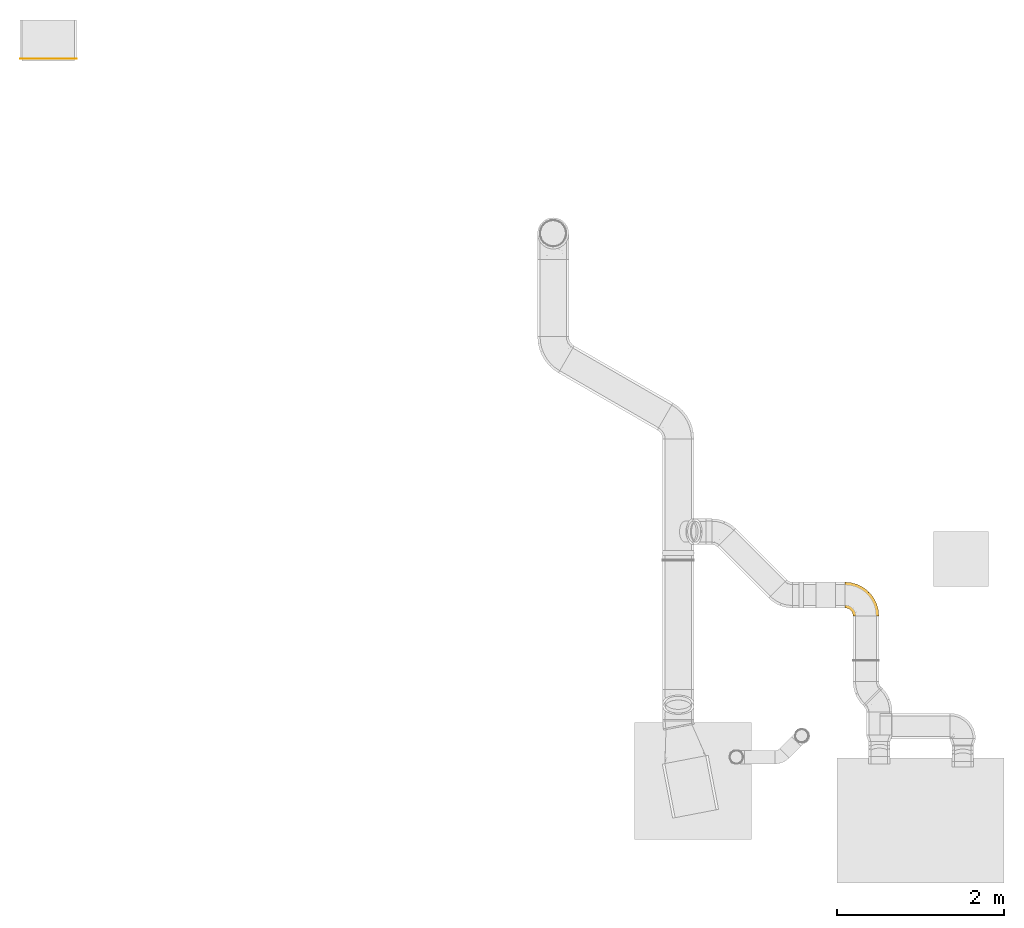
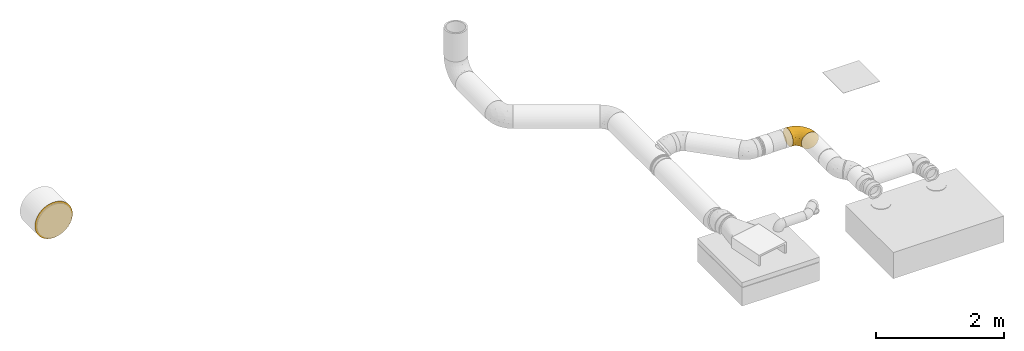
# One storey, part 9 of 21: 2 coverings.
"""IFC2X3 building model written with IfcOpenShell, lengths in millimetres."""

from ifc_helpers import new_model, entity, si_unit, converted_unit, derived_unit, direction, frame, origin_with_axes, place, context, subcontext, project, spatial, open_shell, surface_model, source, transform, mapped, element, save


model = new_model("IFC2X3")

# Units and contexts
model_context = context("Model", 3, precision=0.01, world=frame((0.0, 4.29681676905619e-09, 0.0)), true_north=direction((4.01073788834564e-13, 1.0)))
plan_context = context("Plan", 3, precision=0.01, world=frame((0.0, 4.29681676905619e-09, 0.0)), true_north=direction((4.01073788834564e-13, 1.0)))
body_context = subcontext(model_context, "Body", "Model", "MODEL_VIEW")
ifc_project = project(units=[converted_unit("PLANEANGLEUNIT", "DEGREE", entity("IfcPositiveLengthMeasure", 0.0174532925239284), si_unit("PLANEANGLEUNIT", "RADIAN"), dimensions=[0, 0, 0, 0, 0, 0, 0]), si_unit("AREAUNIT", "SQUARE_METRE"), si_unit("LENGTHUNIT", "METRE", prefix="MILLI"), si_unit("MASSUNIT", "GRAM", prefix="KILO"), si_unit("POWERUNIT", "WATT"), si_unit("PRESSUREUNIT", "PASCAL"), si_unit("FORCEUNIT", "NEWTON", prefix="KILO"), si_unit("ELECTRICVOLTAGEUNIT", "VOLT"), si_unit("ELECTRICCURRENTUNIT", "AMPERE"), si_unit("THERMODYNAMICTEMPERATUREUNIT", "DEGREE_CELSIUS"), si_unit("TIMEUNIT", "SECOND"), si_unit("VOLUMEUNIT", "CUBIC_METRE"), derived_unit("LINEARVELOCITYUNIT", [(si_unit("LENGTHUNIT", "METRE"), 1), (si_unit("TIMEUNIT", "SECOND"), -1)]), derived_unit("VOLUMETRICFLOWRATEUNIT", [(si_unit("VOLUMEUNIT", "CUBIC_METRE"), 1), (si_unit("TIMEUNIT", "SECOND"), -1)]), derived_unit("THERMALTRANSMITTANCEUNIT", [(si_unit("POWERUNIT", "WATT"), 1), (si_unit("THERMODYNAMICTEMPERATUREUNIT", "KELVIN"), -1), (si_unit("AREAUNIT", "SQUARE_METRE"), -1)]), derived_unit("SOUNDPRESSUREUNIT", [(si_unit("PRESSUREUNIT", "PASCAL"), 1)])], contexts=[model_context, plan_context])

# Site, building, storey
site_placement = place(None, frame((0.0, -4.29681676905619e-09, 0.0), z_axis=(0.0, 0.0, 1.0), x_axis=(1.0, 0.0, 0.0)))
site = spatial("IfcSite", under=ifc_project, at=site_placement, Name="ENGM", CompositionType="ELEMENT")
building_placement = place(site_placement, frame((0.0, 4.29681676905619e-09, 0.0), z_axis=(0.0, 0.0, 1.0), x_axis=(1.0, 0.0, 0.0)))
building = spatial("IfcBuilding", under=site, at=building_placement, Name="TI", CompositionType="ELEMENT")
storey_placement = place(building_placement, frame((0.0, 0.0, 210900.0), z_axis=(0.0, 0.0, 1.0), x_axis=(1.0, 0.0, 0.0)))
storey = spatial("IfcBuildingStorey", under=building, at=storey_placement, Name="Nivå F", CompositionType="ELEMENT", Elevation=210900.0)

# Coverings
shared_shape_1 = source(origin_with_axes(), body_context, "Body", "SurfaceModel", [
    surface_model("IfcShellBasedSurfaceModel", [(20.0, -116.28685, 319.49551), (20.0, -170.0, 294.44863), (20.0, 0.0, 340.0), (20.0, -59.04038, 334.83465), (20.0, 59.04038, 334.83465), (20.0, -260.45511, 218.54778), (20.0, -294.44863, 170.0), (20.0, -319.49551, 116.28685), (20.0, -218.54778, 260.45511), (20.0, 218.54778, 260.45511), (20.0, 170.0, 294.44863), (20.0, 116.28685, 319.49551), (20.0, 294.44863, 170.0), (20.0, 334.83465, 59.04038), (20.0, 319.49551, 116.28685), (20.0, -340.0, 0.0), (20.0, -334.83465, -59.04038), (20.0, -319.49551, -116.28685), (20.0, 0.0, -340.0), (20.0, -116.28685, -319.49551), (20.0, -59.04038, -334.83465), (20.0, 170.0, -294.44863), (20.0, 59.04038, -334.83465), (20.0, 116.28685, -319.49551), (20.0, 319.49551, -116.28685), (20.0, 260.45511, 218.54778), (20.0, 340.0, 0.0), (20.0, -334.83465, 59.04038), (20.0, -218.54778, -260.45511), (20.0, -294.44863, -170.0), (20.0, 294.44863, -170.0), (20.0, -170.0, -294.44863), (20.0, -260.45511, -218.54778), (20.0, 218.54778, -260.45511), (20.0, 260.45511, -218.54778), (20.0, 334.83465, -59.04038), (19.99961, -170.0, -294.44863), (19.99961, -218.54778, -260.45511), (19.99961, -116.28685, -319.49551), (19.99961, 0.0, -340.0), (19.99961, -59.04038, -334.83465), (19.99961, 294.44863, -170.0), (19.99961, -334.83465, -59.04038), (19.99961, -340.0, 0.0), (19.99961, -319.49551, -116.28685), (19.99961, -294.44863, -170.0), (19.99961, -260.45511, -218.54778), (19.99961, 334.83465, 59.04038), (19.99961, 59.04038, -334.83465), (19.99961, 170.0, -294.44863), (19.99961, 116.28685, -319.49551), (19.99961, 260.45511, -218.54778), (19.99961, 218.54778, -260.45511), (19.99961, 319.49551, -116.28685), (19.99961, 340.0, 0.0), (19.99961, 334.83465, -59.04038), (19.99961, 218.54778, 260.45511), (19.99961, -319.49551, 116.28685), (19.99961, -294.44863, 170.0), (19.99961, -260.45511, 218.54778), (19.99961, 59.04038, 334.83465), (19.99961, -218.54778, 260.45511), (19.99961, -170.0, 294.44863), (19.99961, -116.28685, 319.49551), (19.99961, -59.04038, 334.83465), (19.99961, 0.0, 340.0), (19.99961, 294.44863, 170.0), (19.99961, 319.49551, 116.28685), (19.99961, 116.28685, 319.49551), (19.99961, 260.45511, 218.54778), (19.99961, 170.0, 294.44863), (19.99961, -334.83465, 59.04038)], [open_shell([[[0, 1, 2]], [[2, 3, 0]], [[2, 1, 4]], [[5, 6, 7]], [[5, 7, 8]], [[9, 10, 11]], [[12, 13, 14]], [[15, 16, 17]], [[18, 19, 20]], [[21, 22, 23]], [[4, 8, 7]], [[4, 1, 8]], [[7, 17, 4]], [[11, 4, 9]], [[9, 24, 13]], [[25, 9, 12]], [[9, 13, 12]], [[13, 24, 26]], [[4, 17, 9]], [[7, 27, 15]], [[17, 24, 9]], [[28, 17, 29]], [[24, 17, 28]], [[28, 19, 30]], [[19, 28, 31]], [[29, 32, 28]], [[33, 34, 30]], [[24, 28, 30]], [[24, 35, 26]], [[18, 22, 21]], [[21, 33, 30]], [[21, 30, 18]], [[18, 30, 19]], [[17, 7, 15]], [[36, 37, 38]], [[38, 39, 40]], [[41, 38, 37]], [[42, 43, 44]], [[45, 44, 37]], [[44, 41, 37]], [[46, 45, 37]], [[47, 41, 44]], [[48, 39, 49]], [[49, 50, 48]], [[39, 41, 49]], [[51, 52, 41]], [[49, 41, 52]], [[38, 41, 39]], [[47, 53, 41]], [[53, 54, 55]], [[43, 47, 44]], [[56, 43, 57]], [[58, 59, 57]], [[59, 60, 57]], [[60, 61, 62]], [[63, 64, 65]], [[63, 65, 62]], [[59, 61, 60]], [[60, 62, 65]], [[66, 67, 47]], [[66, 47, 56]], [[54, 53, 47]], [[60, 68, 56]], [[56, 69, 66]], [[56, 68, 70]], [[43, 56, 47]], [[60, 56, 57]], [[71, 57, 43]]])]),
])
covering_1_placement = place(storey_placement, frame((599767.06731, 699175.62991, 463.401000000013), z_axis=(1.0, 0.0, 0.0), x_axis=(0.0, 0.999999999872, -1.5999999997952e-05)))
element("IfcCovering", 1, at=covering_1_placement, inside=storey, Name="T=25mm", PredefinedType="INSULATION", context=body_context, shape_type="MappedRepresentation", body=[
    mapped(shared_shape_1, transform((0.0, 0.0, 0.0), scale=1.0)),
])
shared_shape_2 = source(origin_with_axes(), body_context, "Body", "SurfaceModel", [
    surface_model("IfcShellBasedSurfaceModel", [(26.91195, 250.0, 152.64582), (53.0122, 250.0, 145.65269), (118.73529, 250.0, 99.63399), (-53.01196, 250.0, 145.65278), (0.0, 250.0, 155.0), (77.50252, 250.0, 134.23249), (145.65278, 250.0, 53.01196), (152.6459, 250.0, 26.91148), (134.23266, 250.0, 77.50222), (99.63454, 250.0, 118.73482), (-145.65278, 250.0, -53.01196), (-77.50222, 250.0, 134.23266), (-118.73482, 250.0, 99.63454), (-99.63399, 250.0, 118.73529), (-26.91148, 250.0, 152.6459), (-134.23249, 250.0, 77.50252), (-145.65269, 250.0, 53.0122), (-155.0, 250.0, 0.0), (-152.64582, 250.0, 26.91195), (155.0, 250.0, 0.0), (152.64582, 250.0, -26.91195), (145.65269, 250.0, -53.0122), (99.63399, 250.0, -118.73529), (134.23249, 250.0, -77.50252), (-134.23266, 250.0, -77.50222), (53.01196, 250.0, -145.65278), (-26.91195, 250.0, -152.64582), (77.50222, 250.0, -134.23266), (118.73482, 250.0, -99.63454), (0.0, 250.0, -155.0), (26.91148, 250.0, -152.6459), (-99.63454, 250.0, -118.73482), (-118.73529, 250.0, -99.63399), (-152.6459, 250.0, -26.91148), (-77.50252, 250.0, -134.23249), (-53.0122, 250.0, -145.65269), (-250.0, 149.7185, -40.11695), (-250.0, 134.23394, 77.5), (-250.0, 155.0, 0.0), (-250.0, 77.5, -134.23394), (-250.0, 134.23394, -77.5), (-250.0, 109.60155, -109.60155), (-250.0, -77.5, 134.23394), (-250.0, 0.0, 155.0), (-250.0, 109.60155, 109.60155), (-250.0, 149.7185, 40.11695), (-250.0, 40.11695, 149.7185), (-250.0, 77.5, 134.23394), (-250.0, 40.11695, -149.7185), (-250.0, 0.0, -155.0), (-250.0, -40.11695, -149.7185), (-250.0, -77.5, -134.23394), (-250.0, -134.23394, -77.5), (-250.0, -109.60155, -109.60155), (-250.0, -155.0, 0.0), (-250.0, -149.7185, -40.11695), (-250.0, -134.23394, 77.5), (-250.0, -109.60155, 109.60155), (-250.0, -40.11695, 149.7185), (-250.0, -149.7185, 40.11695), (-150.31078, -137.47961, 38.67299), (-179.67248, -148.84714, 0.0), (-111.48184, -130.57551, 0.0), (130.57551, 111.48184, 0.0), (145.01049, 177.05911, 31.86841), (114.0188, 83.02302, 37.12446), (100.74029, 47.5, 0.0), (-47.5, -100.74029, 0.0), (-83.00007, -114.03065, 37.04192), (10.32898, -60.248, 0.0), (-20.99283, -79.08825, 35.29449), (-183.11942, -134.92229, 65.05), (-191.0855, -93.92643, 119.31754), (3.78518, 74.23487, 143.45185), (-49.54875, 49.54875, 151.34078), (-48.89804, 3.01457, 139.04106), (52.55606, 56.70038, 110.16688), (18.59113, 47.09169, 128.53788), (1.69806, -1.69807, 113.1308), (65.9981, 2.35675, 32.86941), (-129.01187, -24.20514, 146.81223), (-117.30413, -78.97391, 114.26733), (-100.74226, -44.96137, 132.41076), (-179.96963, -60.07628, 139.34304), (-6.26802, 194.36977, 155.0), (11.73841, 141.12202, 151.34078), (-194.36977, 6.26802, 155.0), (-167.16928, -117.53346, 89.2134), (48.8239, 143.19487, 139.60898), (-141.52906, 24.75778, 155.0), (-19.26822, -49.20189, 87.65463), (43.33387, 11.85264, 87.65463), (60.248, -10.32898, 0.0), (106.6963, 176.9469, 104.91009), (-94.12755, 54.54213, 155.0), (148.84714, 179.67248, 0.0), (132.00028, 159.3803, 60.7432), (97.31699, 87.1286, 78.57178), (-90.5967, -106.32507, 65.7685), (77.14782, 127.99364, 119.13315), (-24.75778, 141.52906, 155.0), (-54.54213, 94.12755, 155.0), (-55.66742, -44.08346, 116.27769), (72.83054, 28.50652, 63.24823), (-29.47061, -73.39879, 63.41636), (28.39752, -28.39753, 58.06388), (-101.82394, -94.39247, 91.7654), (-211.50444, 37.10471, 151.30275), (-222.10632, 146.9083, 59.31593), (-134.03653, 65.4452, 151.65306), (-172.43212, 44.51154, 151.99785), (-199.10186, 66.2344, 143.20133), (-103.0168, 103.0168, 149.16332), (-104.18631, 144.12888, 138.39182), (-128.48395, 119.82049, 137.30499), (-116.63658, 206.11385, 109.6018), (-147.81259, 184.16703, 86.76144), (-126.21683, 179.79778, 111.4752), (-66.94837, 134.98104, 151.26715), (-192.62287, 157.0072, 64.96066), (-212.31553, 159.02165, 32.63355), (-231.57502, 154.29333, 27.52808), (-175.09702, 175.09702, 57.17077), (-188.85619, 173.03546, 31.79467), (-152.21684, 227.75786, 40.11475), (-225.06808, 125.44046, 94.35802), (-139.49128, 227.54601, 72.05594), (-161.05532, 208.65752, 30.7628), (-159.64963, 220.64338, 0.0), (-216.88296, 97.9221, 122.96977), (-172.48936, 121.3057, 118.62402), (-143.88489, 158.0686, 109.6018), (-172.1176, 149.40919, 94.60101), (-149.1074, 207.38658, 65.5067), (-44.48695, 166.67228, 152.40639), (-45.23121, 203.93797, 149.71919), (-75.08742, 215.05799, 137.45524), (-79.65543, 179.14375, 140.47743), (-152.85644, 95.39688, 139.57382), (-175.64811, 186.52699, 29.12042), (-194.16041, 173.14339, 0.0), (-163.0453, 192.39798, 52.89026), (-186.1263, 95.2174, 131.18503), (-198.57725, 114.50527, 113.948), (-197.22415, 134.4518, 94.35801), (-173.14339, 194.16041, 0.0), (-160.49011, 167.2314, 87.28456), (-207.40189, 166.39651, 0.0), (-220.64338, 159.64963, 0.0), (-6.26802, 194.36977, -155.0), (-45.23159, 203.93792, -149.7191), (-231.57502, 154.29333, -27.52809), (-79.65579, 179.14361, -140.4773), (-104.18615, 144.12866, -138.39195), (-126.21663, 179.79709, -111.4757), (-222.10645, 146.90827, -59.31593), (-212.31553, 159.02163, -32.63362), (-197.22448, 134.45163, -94.35802), (-225.06828, 125.44042, -94.35802), (-209.34959, 99.76029, -122.96977), (-188.85591, 173.03582, -31.79413), (-175.64795, 186.52719, -29.12039), (-54.54213, 94.12755, -155.0), (-66.94837, 134.98104, -151.26715), (-24.75778, 141.52906, -155.0), (-212.58185, 33.05708, -152.09783), (-218.84, 61.87911, -143.20132), (-192.08237, 79.96749, -138.10323), (-139.4915, 227.54621, -72.05544), (-116.63717, 206.11369, -109.6013), (-149.10742, 207.38685, -65.50643), (-152.21691, 227.75797, -40.11439), (-152.85642, 95.39688, -139.57382), (-134.03653, 65.44519, -151.65306), (-181.34634, 53.79909, -149.16332), (-54.25738, 169.08861, -150.22059), (-94.12755, 54.54213, -155.0), (-141.52906, 24.75778, -155.0), (-103.0168, 103.0168, -149.16332), (-161.05527, 208.65769, -30.76274), (-75.0879, 215.05791, -137.455), (-163.04526, 192.39807, -52.8902), (-147.81236, 184.16728, -86.76151), (-162.56577, 168.46283, -83.71815), (-194.36977, 6.26802, -155.0), (-192.62336, 157.00726, -64.96002), (-172.11825, 149.4093, -94.60037), (-172.48929, 121.3059, -118.62391), (-128.48395, 119.82045, -137.30501), (-143.8857, 158.06846, -109.6013), (-175.09712, 175.09712, -57.17035), (-49.54874, 49.54874, -151.34077), (-82.55862, -115.94529, -28.09066), (97.31694, 87.12913, -78.57223), (132.00018, 159.38037, -60.74346), (114.01879, 83.02305, -37.12457), (-141.12202, -11.73841, -151.34077), (-74.23487, -3.78519, -143.45185), (24.20795, 129.00916, -146.811), (75.36499, 19.34759, -43.30762), (64.5533, 24.07199, -71.96309), (15.01922, -19.30223, -87.65473), (1.69807, -1.69808, -113.13079), (58.44102, 51.67026, -102.00775), (56.61241, 146.31291, -136.37357), (41.70877, 191.71531, -147.55056), (-148.62141, -53.68892, -138.21036), (-152.15255, -128.26677, -64.98992), (-167.16928, -117.53346, -89.2134), (106.69586, 176.94712, -104.91062), (-191.0855, -93.92643, -119.31754), (-117.30413, -78.97391, -114.26733), (77.14742, 127.99367, -119.13348), (-150.31078, -137.47961, -38.67299), (-20.99285, -79.08823, -35.29459), (-90.5967, -106.32507, -65.7685), (-27.87966, -67.01887, -72.32859), (-46.67048, -55.30269, -101.87959), (145.01038, 177.05863, -31.8685), (-64.32661, -34.77701, -126.22307), (28.39745, -28.39746, -58.06412), (34.97818, -34.24515, -27.71526), (-3.01708, 48.89655, -139.04156), (33.92306, 56.80652, -123.68528), (-96.94173, -92.23558, -91.78409)], [open_shell([[[0, 1, 2]], [[0, 3, 4]], [[2, 1, 5]], [[6, 7, 8]], [[2, 8, 7]], [[0, 2, 3]], [[5, 9, 2]], [[10, 3, 2]], [[11, 10, 12]], [[12, 13, 11]], [[14, 4, 3]], [[15, 12, 16]], [[16, 17, 18]], [[17, 16, 12]], [[17, 12, 10]], [[11, 3, 10]], [[10, 2, 7]], [[19, 20, 21]], [[21, 22, 7]], [[22, 21, 23]], [[7, 22, 24]], [[22, 25, 26]], [[25, 22, 27]], [[22, 23, 28]], [[29, 25, 30]], [[31, 32, 24]], [[7, 24, 10]], [[10, 33, 17]], [[26, 31, 24]], [[26, 34, 31]], [[34, 26, 35]], [[26, 24, 22]], [[25, 29, 26]], [[21, 7, 19]], [[36, 37, 38]], [[39, 36, 40]], [[37, 36, 39]], [[39, 40, 41]], [[42, 43, 39]], [[37, 43, 44]], [[37, 45, 38]], [[44, 46, 47]], [[46, 44, 43]], [[39, 43, 37]], [[39, 48, 42]], [[49, 50, 51]], [[49, 51, 52]], [[49, 52, 42]], [[52, 51, 53]], [[54, 52, 55]], [[42, 56, 57]], [[58, 43, 42]], [[56, 54, 59]], [[54, 56, 42]], [[52, 54, 42]], [[42, 48, 49]], [[60, 61, 62]], [[61, 59, 54]], [[63, 64, 65]], [[63, 65, 66]], [[62, 67, 68]], [[69, 70, 67]], [[71, 59, 60]], [[72, 42, 57]], [[73, 74, 75]], [[70, 68, 67]], [[76, 77, 78]], [[79, 70, 69]], [[75, 74, 80]], [[81, 82, 83]], [[0, 84, 85]], [[86, 43, 58]], [[71, 87, 56]], [[88, 73, 77]], [[83, 58, 42]], [[74, 89, 80]], [[90, 91, 78]], [[86, 58, 80]], [[88, 5, 1]], [[85, 74, 73]], [[80, 89, 86]], [[92, 79, 69]], [[2, 9, 93]], [[89, 74, 94]], [[65, 79, 66]], [[95, 64, 63]], [[8, 96, 6]], [[57, 56, 87]], [[64, 95, 7]], [[96, 8, 93]], [[96, 93, 97]], [[96, 64, 6]], [[60, 68, 98]], [[2, 93, 8]], [[99, 97, 93]], [[95, 19, 7]], [[88, 0, 85]], [[93, 9, 5]], [[84, 0, 4]], [[85, 100, 101]], [[91, 76, 78]], [[78, 102, 90]], [[75, 82, 102]], [[85, 84, 100]], [[103, 97, 91]], [[74, 85, 101]], [[59, 61, 60]], [[101, 94, 74]], [[96, 97, 65]], [[85, 73, 88]], [[93, 5, 99]], [[98, 87, 71]], [[104, 105, 90]], [[65, 103, 79]], [[82, 75, 80]], [[105, 91, 90]], [[77, 75, 78]], [[5, 88, 99]], [[0, 88, 1]], [[106, 87, 98]], [[72, 87, 81]], [[83, 82, 80]], [[102, 82, 81]], [[58, 83, 80]], [[83, 42, 72]], [[81, 87, 106]], [[75, 102, 78]], [[106, 102, 81]], [[104, 98, 68]], [[103, 91, 105]], [[76, 97, 99]], [[97, 76, 91]], [[99, 88, 77]], [[77, 76, 99]], [[75, 77, 73]], [[79, 103, 105]], [[65, 97, 103]], [[70, 79, 105]], [[79, 92, 66]], [[6, 64, 7]], [[65, 64, 96]], [[87, 72, 57]], [[83, 72, 81]], [[62, 68, 60]], [[104, 68, 70]], [[59, 71, 56]], [[98, 71, 60]], [[104, 106, 98]], [[102, 106, 90]], [[105, 104, 70]], [[106, 104, 90]], [[86, 107, 43]], [[37, 108, 45]], [[109, 110, 89]], [[111, 107, 110]], [[112, 113, 114]], [[115, 116, 117]], [[112, 94, 101]], [[89, 110, 86]], [[112, 118, 113]], [[108, 119, 120]], [[38, 45, 121]], [[119, 122, 123]], [[17, 124, 18]], [[125, 108, 37]], [[126, 12, 15]], [[89, 94, 109]], [[127, 124, 128]], [[44, 125, 37]], [[47, 46, 111]], [[129, 47, 111]], [[130, 131, 132]], [[115, 133, 116]], [[112, 101, 118]], [[134, 118, 100]], [[115, 13, 12]], [[84, 14, 135]], [[14, 3, 135]], [[135, 136, 137]], [[133, 124, 127]], [[4, 14, 84]], [[109, 112, 138]], [[3, 136, 135]], [[139, 140, 123]], [[3, 11, 136]], [[141, 116, 133]], [[137, 118, 134]], [[127, 141, 133]], [[15, 16, 126]], [[124, 126, 16]], [[142, 129, 111]], [[124, 16, 18]], [[136, 13, 115]], [[128, 124, 17]], [[122, 119, 132]], [[118, 101, 100]], [[124, 133, 126]], [[139, 123, 122]], [[44, 47, 129]], [[142, 138, 130]], [[84, 135, 134]], [[129, 143, 125]], [[108, 120, 121]], [[113, 118, 137]], [[117, 137, 115]], [[112, 114, 138]], [[112, 109, 94]], [[110, 138, 111]], [[129, 125, 44]], [[108, 125, 144]], [[128, 145, 127]], [[141, 139, 122]], [[139, 127, 145]], [[132, 131, 146]], [[146, 141, 122]], [[116, 131, 117]], [[127, 139, 141]], [[140, 139, 145]], [[123, 140, 147]], [[119, 108, 144]], [[148, 121, 120]], [[132, 119, 144]], [[148, 120, 147]], [[147, 120, 123]], [[123, 120, 119]], [[38, 121, 148]], [[108, 121, 45]], [[130, 132, 144]], [[131, 116, 146]], [[142, 143, 129]], [[130, 138, 114]], [[138, 110, 109]], [[111, 46, 107]], [[43, 107, 46]], [[86, 110, 107]], [[131, 113, 117]], [[137, 117, 113]], [[13, 136, 11]], [[115, 137, 136]], [[133, 115, 126]], [[12, 126, 115]], [[113, 131, 114]], [[130, 114, 131]], [[138, 142, 111]], [[143, 130, 144]], [[130, 143, 142]], [[125, 143, 144]], [[84, 134, 100]], [[137, 134, 135]], [[141, 146, 116]], [[122, 132, 146]], [[26, 149, 150]], [[38, 148, 151]], [[152, 153, 154]], [[40, 36, 155]], [[147, 156, 148]], [[155, 157, 158]], [[41, 158, 159]], [[160, 140, 161]], [[162, 163, 164]], [[158, 41, 40]], [[49, 48, 165]], [[148, 156, 151]], [[48, 166, 165]], [[166, 159, 167]], [[168, 32, 169]], [[39, 41, 159]], [[168, 170, 171]], [[172, 173, 174]], [[175, 149, 164]], [[153, 152, 163]], [[176, 177, 173]], [[163, 162, 178]], [[128, 171, 179]], [[153, 163, 178]], [[171, 33, 10]], [[17, 171, 128]], [[168, 171, 10]], [[34, 180, 31]], [[181, 182, 183]], [[33, 171, 17]], [[145, 161, 140]], [[176, 173, 178]], [[177, 184, 174]], [[10, 24, 168]], [[185, 186, 157]], [[35, 180, 34]], [[164, 163, 175]], [[180, 35, 150]], [[162, 176, 178]], [[157, 186, 187]], [[35, 26, 150]], [[169, 154, 182]], [[29, 149, 26]], [[178, 188, 153]], [[179, 171, 170]], [[150, 152, 180]], [[179, 181, 161]], [[39, 166, 48]], [[187, 159, 157]], [[32, 31, 169]], [[166, 167, 174]], [[155, 36, 151]], [[150, 175, 152]], [[188, 178, 172]], [[154, 189, 182]], [[174, 173, 177]], [[178, 173, 172]], [[155, 158, 40]], [[159, 158, 157]], [[181, 179, 170]], [[145, 128, 179]], [[182, 181, 170]], [[161, 181, 190]], [[169, 182, 170]], [[189, 186, 183]], [[161, 190, 160]], [[179, 161, 145]], [[185, 160, 190]], [[147, 140, 160]], [[190, 183, 186]], [[155, 185, 157]], [[156, 160, 185]], [[160, 156, 147]], [[185, 155, 156]], [[155, 151, 156]], [[38, 151, 36]], [[190, 186, 185]], [[189, 188, 187]], [[189, 187, 186]], [[187, 172, 167]], [[152, 154, 169]], [[153, 189, 154]], [[32, 168, 24]], [[169, 170, 168]], [[152, 169, 180]], [[31, 180, 169]], [[159, 166, 39]], [[165, 166, 174]], [[174, 184, 165]], [[49, 165, 184]], [[187, 167, 159]], [[172, 174, 167]], [[187, 188, 172]], [[189, 153, 188]], [[175, 150, 149]], [[163, 152, 175]], [[181, 183, 190]], [[189, 183, 182]], [[177, 176, 191]], [[67, 62, 192]], [[193, 194, 195]], [[196, 49, 184]], [[196, 177, 191]], [[196, 191, 197]], [[164, 198, 191]], [[193, 199, 200]], [[201, 202, 203]], [[176, 162, 191]], [[204, 198, 205]], [[206, 50, 196]], [[207, 52, 208]], [[209, 28, 23]], [[61, 54, 55]], [[210, 206, 211]], [[53, 51, 210]], [[193, 212, 209]], [[208, 52, 53]], [[62, 61, 213]], [[214, 69, 67]], [[215, 214, 192]], [[212, 204, 27]], [[192, 62, 213]], [[208, 215, 207]], [[203, 193, 200]], [[149, 198, 164]], [[216, 214, 215]], [[66, 92, 199]], [[177, 196, 184]], [[205, 149, 30]], [[30, 149, 29]], [[207, 55, 52]], [[30, 25, 205]], [[22, 28, 209]], [[201, 217, 202]], [[193, 195, 199]], [[49, 196, 50]], [[206, 196, 197]], [[27, 22, 209]], [[61, 55, 213]], [[23, 194, 209]], [[212, 27, 209]], [[195, 194, 218]], [[217, 219, 202]], [[220, 221, 214]], [[63, 195, 218]], [[221, 69, 214]], [[95, 218, 20]], [[222, 191, 198]], [[19, 95, 20]], [[195, 63, 66]], [[164, 191, 162]], [[194, 193, 209]], [[203, 202, 223]], [[23, 21, 194]], [[219, 206, 197]], [[197, 191, 222]], [[92, 221, 199]], [[21, 20, 218]], [[50, 206, 51]], [[222, 198, 204]], [[219, 222, 202]], [[210, 208, 53]], [[224, 208, 211]], [[25, 27, 204]], [[149, 205, 198]], [[204, 205, 25]], [[204, 212, 223]], [[199, 221, 220]], [[69, 221, 92]], [[199, 220, 200]], [[66, 199, 195]], [[201, 200, 220]], [[200, 201, 203]], [[223, 202, 222]], [[212, 193, 203]], [[220, 216, 201]], [[217, 224, 211]], [[217, 201, 216]], [[219, 217, 211]], [[206, 219, 211]], [[219, 197, 222]], [[214, 216, 220]], [[216, 215, 224]], [[204, 223, 222]], [[212, 203, 223]], [[216, 224, 217]], [[208, 224, 215]], [[218, 95, 63]], [[21, 218, 194]], [[206, 210, 51]], [[208, 210, 211]], [[215, 192, 213]], [[67, 192, 214]], [[215, 213, 207]], [[207, 213, 55]]])]),
])
covering_2_placement = place(storey_placement, frame((609569.51365, 692765.29135, 2600.0), z_axis=(0.0, 0.0, 1.0), x_axis=(0.0, 1.0, 0.0)))
element("IfcCovering", 2, at=covering_2_placement, inside=storey, Name="B-EI60", PredefinedType="INSULATION", context=body_context, shape_type="MappedRepresentation", body=[
    mapped(shared_shape_2, transform((0.0, 0.0, 0.0), scale=1.0)),
])

save(model, "model.ifc")
